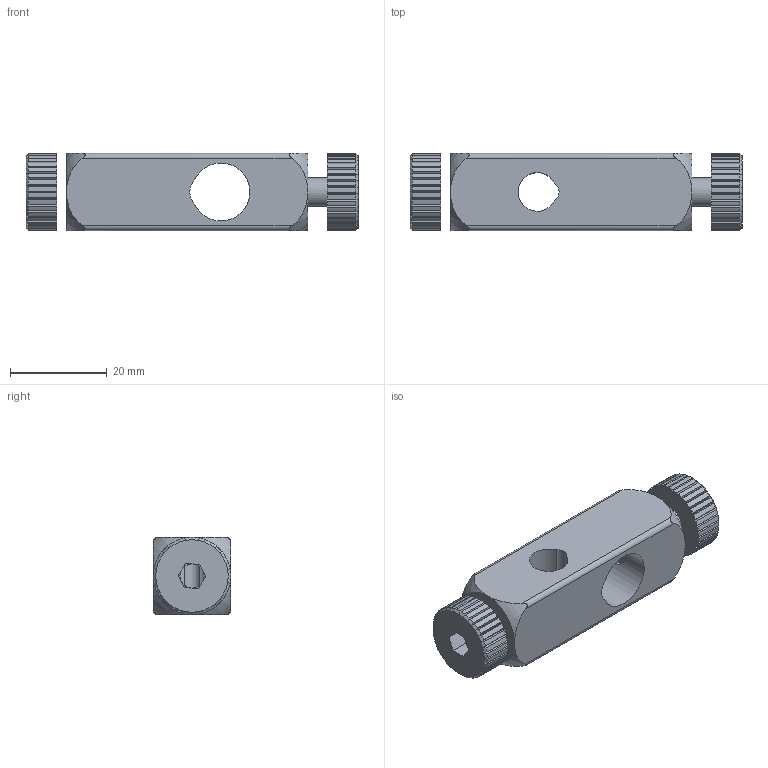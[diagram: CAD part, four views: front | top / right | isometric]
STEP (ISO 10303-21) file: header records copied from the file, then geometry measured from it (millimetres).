
FILE_DESCRIPTION (( 'STEP AP203' ), '1' );
FILE_NAME ('CPE-0812.step', '2017-01-11T07:13:52', ( '¦K¬P' ), ( '' ), 'SwSTEP 2.0', 'SolidWorks 2012', '' );
FILE_SCHEMA (( 'CONFIG_CONTROL_DESIGN' ));
Length unit declared in the file: millimetre
Products named in the file (1): CPE-0812
Bounding box: 68.8 x 16 x 16 mm (x, y, z)
Surface area: 6314.9 mm2 (no closed solid volume)
Topology: 0 solids, 3 shells, 259 faces, 749 edges, 497 vertices
Faces by surface type: plane 167, cylinder 82, torus 8, cone 2
Full cylindrical faces by diameter (mm): 5 x1, 6 x1
Entity records: 9094 total; most frequent: CARTESIAN_POINT 2384, ORIENTED_EDGE 1475, DIRECTION 1262, EDGE_CURVE 745, VERTEX_POINT 497, AXIS2_PLACEMENT_3D 427, LINE 408, VECTOR 408
